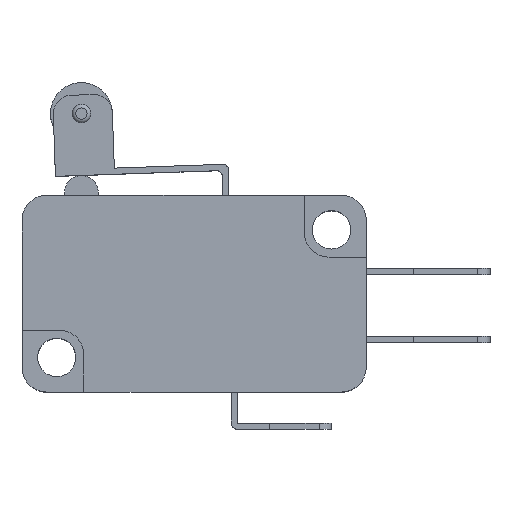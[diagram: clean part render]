
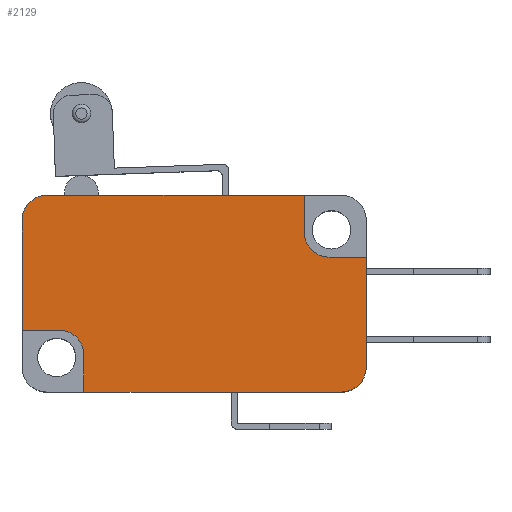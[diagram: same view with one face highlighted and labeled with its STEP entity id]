
A CAD part, top view. The second image highlights one B-rep face of the part: STEP entity #2129.
In plain terms, the highlighted planar face has unit normal (0, 0, 1).
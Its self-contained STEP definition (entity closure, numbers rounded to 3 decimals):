
#85=CIRCLE('',#2262,2.);
#89=CIRCLE('',#2269,2.);
#92=CIRCLE('',#2277,2.);
#94=CIRCLE('',#2283,2.);
#311=FACE_OUTER_BOUND('',#445,.T.);
#445=EDGE_LOOP('',(#1825,#1826,#1827,#1828,#1829,#1830,#1831,#1832,#1833,
#1834,#1835,#1836));
#519=LINE('',#2991,#736);
#527=LINE('',#3008,#744);
#644=LINE('',#3315,#861);
#651=LINE('',#3335,#868);
#654=LINE('',#3341,#871);
#661=LINE('',#3358,#878);
#663=LINE('',#3366,#880);
#664=LINE('',#3368,#881);
#736=VECTOR('',#2404,20.8);
#744=VECTOR('',#2414,20.8);
#861=VECTOR('',#2703,3.);
#868=VECTOR('',#2722,3.);
#871=VECTOR('',#2729,8.9);
#878=VECTOR('',#2750,8.9);
#880=VECTOR('',#2764,3.);
#881=VECTOR('',#2767,3.);
#947=VERTEX_POINT('',#2988);
#948=VERTEX_POINT('',#2990);
#954=VERTEX_POINT('',#3004);
#956=VERTEX_POINT('',#3007);
#1055=VERTEX_POINT('',#3299);
#1056=VERTEX_POINT('',#3301);
#1060=VERTEX_POINT('',#3314);
#1063=VERTEX_POINT('',#3321);
#1064=VERTEX_POINT('',#3323);
#1067=VERTEX_POINT('',#3334);
#1068=VERTEX_POINT('',#3340);
#1071=VERTEX_POINT('',#3357);
#1151=EDGE_CURVE('',#948,#947,#519,.T.);
#1159=EDGE_CURVE('',#956,#954,#527,.T.);
#1302=EDGE_CURVE('',#1055,#1056,#85,.F.);
#1309=EDGE_CURVE('',#1060,#1056,#644,.T.);
#1313=EDGE_CURVE('',#1063,#1064,#89,.F.);
#1319=EDGE_CURVE('',#1067,#1064,#651,.T.);
#1322=EDGE_CURVE('',#1068,#1067,#654,.T.);
#1326=EDGE_CURVE('',#1068,#954,#92,.T.);
#1332=EDGE_CURVE('',#1071,#1060,#661,.T.);
#1334=EDGE_CURVE('',#1071,#947,#94,.T.);
#1335=EDGE_CURVE('',#1055,#956,#663,.T.);
#1336=EDGE_CURVE('',#1063,#948,#664,.T.);
#1825=ORIENTED_EDGE('',*,*,#1326,.F.);
#1826=ORIENTED_EDGE('',*,*,#1322,.T.);
#1827=ORIENTED_EDGE('',*,*,#1319,.T.);
#1828=ORIENTED_EDGE('',*,*,#1313,.F.);
#1829=ORIENTED_EDGE('',*,*,#1336,.T.);
#1830=ORIENTED_EDGE('',*,*,#1151,.T.);
#1831=ORIENTED_EDGE('',*,*,#1334,.F.);
#1832=ORIENTED_EDGE('',*,*,#1332,.T.);
#1833=ORIENTED_EDGE('',*,*,#1309,.T.);
#1834=ORIENTED_EDGE('',*,*,#1302,.F.);
#1835=ORIENTED_EDGE('',*,*,#1335,.T.);
#1836=ORIENTED_EDGE('',*,*,#1159,.T.);
#2029=PLANE('',#2289);
#2129=ADVANCED_FACE('',(#311),#2029,.T.);
#2262=AXIS2_PLACEMENT_3D('',#3302,#2689,#2690);
#2269=AXIS2_PLACEMENT_3D('',#3324,#2710,#2711);
#2277=AXIS2_PLACEMENT_3D('',#3347,#2736,#2737);
#2283=AXIS2_PLACEMENT_3D('',#3361,#2754,#2755);
#2289=AXIS2_PLACEMENT_3D('',#3369,#2768,#2769);
#2404=DIRECTION('',(-1.,0.,0.));
#2414=DIRECTION('',(1.,0.,0.));
#2689=DIRECTION('center_axis',(0.,0.,-1.));
#2690=DIRECTION('ref_axis',(0.707,0.707,0.));
#2703=DIRECTION('',(1.,0.,0.));
#2710=DIRECTION('center_axis',(0.,0.,-1.));
#2711=DIRECTION('ref_axis',(-0.707,-0.707,0.));
#2722=DIRECTION('',(-1.,0.,0.));
#2729=DIRECTION('',(0.,1.,0.));
#2736=DIRECTION('center_axis',(0.,0.,-1.));
#2737=DIRECTION('ref_axis',(0.707,-0.707,0.));
#2750=DIRECTION('',(0.,-1.,0.));
#2754=DIRECTION('center_axis',(0.,0.,-1.));
#2755=DIRECTION('ref_axis',(-0.707,0.707,0.));
#2764=DIRECTION('',(0.,-1.,0.));
#2767=DIRECTION('',(0.,1.,0.));
#2768=DIRECTION('center_axis',(0.,0.,1.));
#2769=DIRECTION('ref_axis',(1.,0.,0.));
#2988=CARTESIAN_POINT('',(-11.9,7.95,5.));
#2990=CARTESIAN_POINT('',(8.9,7.95,5.));
#2991=CARTESIAN_POINT('',(-13.9,7.95,5.));
#3004=CARTESIAN_POINT('',(11.9,-7.95,5.));
#3007=CARTESIAN_POINT('',(-8.9,-7.95,5.));
#3008=CARTESIAN_POINT('',(13.9,-7.95,5.));
#3299=CARTESIAN_POINT('',(-8.9,-4.95,5.));
#3301=CARTESIAN_POINT('',(-10.9,-2.95,5.));
#3302=CARTESIAN_POINT('Origin',(-10.9,-4.95,5.));
#3314=CARTESIAN_POINT('',(-13.9,-2.95,5.));
#3315=CARTESIAN_POINT('',(-4.45,-2.95,5.));
#3321=CARTESIAN_POINT('',(8.9,4.95,5.));
#3323=CARTESIAN_POINT('',(10.9,2.95,5.));
#3324=CARTESIAN_POINT('Origin',(10.9,4.95,5.));
#3334=CARTESIAN_POINT('',(13.9,2.95,5.));
#3335=CARTESIAN_POINT('',(4.45,2.95,5.));
#3340=CARTESIAN_POINT('',(13.9,-5.95,5.));
#3341=CARTESIAN_POINT('',(13.9,7.95,5.));
#3347=CARTESIAN_POINT('Origin',(11.9,-5.95,5.));
#3357=CARTESIAN_POINT('',(-13.9,5.95,5.));
#3358=CARTESIAN_POINT('',(-13.9,-7.95,5.));
#3361=CARTESIAN_POINT('Origin',(-11.9,5.95,5.));
#3366=CARTESIAN_POINT('',(-8.9,-3.975,5.));
#3368=CARTESIAN_POINT('',(8.9,3.975,5.));
#3369=CARTESIAN_POINT('Origin',(0.,0.,5.));
